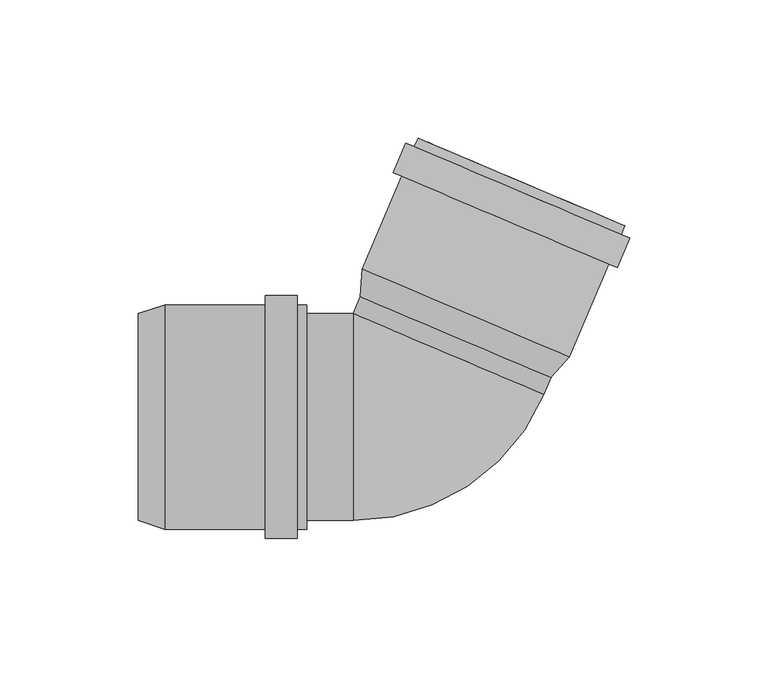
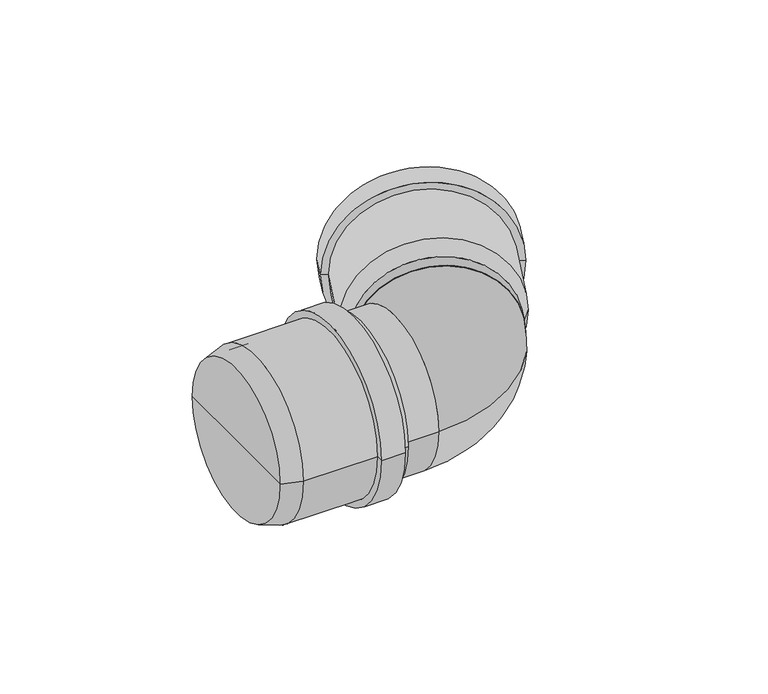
"""IFC4 building model written with IfcOpenShell, lengths in millimetres: pipe fitting geometry, pf_HTB : pf_HTB."""

from ifc_helpers import new_model, si_unit, point, frame, origin, origin_2d, place, context, project, spatial, polyline, circle_curve, ellipse_curve, trimmed, segment, composite_curve, outline, extrude, source, transform, mapped, element, save
from ifc_brep_helpers import plane_surface, cylinder_surface, revolved_surface, advanced_brep


def pipe_fitting_7228f4b3(model_context):
    return source(origin(), model_context, "Body", "SolidModel", [
        advanced_brep(
        [(46.7878894, 14.2514351, 0.0), (-22.2499746, 43.5562697, 0.0), (-21.3915939, 53.5123323, 0.0), (53.3534002, 21.7849647, 0.0), (12.2689574, 28.9038524, 0.0), (73.4760533, 69.1909646, 0.0), (-1.2689408, 100.9183323, 0.0), (1.5846243, 99.7070658, 0.0), (70.6224883, 70.4022311, 0.0), (72.1475675, 66.0612481, 0.0), (-2.5974266, 97.7886158, 0.0), (75.277284, 64.7327623, 0.0), (-5.7271431, 99.1171016, 0.0), (70.7448029, 54.054906, 0.0), (-10.2596242, 88.4392453, 0.0), (67.6150864, 55.3833918, 0.0), (-7.1299077, 87.1107595, 0.0), (50.4998352, 22.9962312, 0.0), (-18.5380288, 52.3010658, 0.0), (15.9809032, 37.6486485, 0.0)],
        [
            (0, 1, circle_curve(frame((12.2689574, 28.9038524, 0.0), z_axis=(0.39073112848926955, 0.9205048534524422, 0.0), x_axis=(-0.9205048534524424, 0.39073112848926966, 0.0)), 37.5)),
            (1, 2),
            (2, 3, circle_curve(frame((15.9809032, 37.6486485, 0.0), z_axis=(-0.39073112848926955, -0.9205048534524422, 0.0), x_axis=(-0.9205048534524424, 0.39073112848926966, 0.0)), 40.6)),
            (3, 0),
            (1, 0, circle_curve(frame((12.2689574, 28.9038524, 0.0), z_axis=(0.39073112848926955, 0.9205048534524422, 0.0), x_axis=(-0.9205048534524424, 0.39073112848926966, 0.0)), 37.5)),
            (3, 2, circle_curve(frame((15.9809032, 37.6486485, 0.0), z_axis=(-0.39073112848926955, -0.9205048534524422, 0.0), x_axis=(-0.9205048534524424, 0.39073112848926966, 0.0)), 40.6)),
            (4, 1),
            (0, 4),
            (5, 6, circle_curve(frame((36.1035563, 85.0546485, 0.0), z_axis=(0.39073112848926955, 0.9205048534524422, 0.0), x_axis=(-0.9205048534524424, 0.39073112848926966, 0.0)), 40.6)),
            (6, 7),
            (7, 8, circle_curve(frame((36.1035563, 85.0546485, 0.0), z_axis=(-0.39073112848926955, -0.9205048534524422, 0.0), x_axis=(-0.9205048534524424, 0.39073112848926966, 0.0)), 37.5)),
            (8, 5),
            (6, 5, circle_curve(frame((36.1035563, 85.0546485, 0.0), z_axis=(0.39073112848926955, 0.9205048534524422, 0.0), x_axis=(-0.9205048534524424, 0.39073112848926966, 0.0)), 40.6)),
            (8, 7, circle_curve(frame((36.1035563, 85.0546485, 0.0), z_axis=(-0.39073112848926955, -0.9205048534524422, 0.0), x_axis=(-0.9205048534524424, 0.39073112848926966, 0.0)), 37.5)),
            (9, 10, circle_curve(frame((34.7750704, 81.924932, 0.0), z_axis=(0.39073112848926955, 0.9205048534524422, 0.0), x_axis=(-0.9205048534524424, 0.39073112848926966, 0.0)), 40.6)),
            (10, 6),
            (5, 9),
            (10, 9, circle_curve(frame((34.7750704, 81.924932, 0.0), z_axis=(0.39073112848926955, 0.9205048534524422, 0.0), x_axis=(-0.9205048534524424, 0.39073112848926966, 0.0)), 40.6)),
            (11, 12, circle_curve(frame((34.7750704, 81.924932, 0.0), z_axis=(0.39073112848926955, 0.9205048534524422, 0.0), x_axis=(-0.9205048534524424, 0.39073112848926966, 0.0)), 44.0)),
            (12, 10),
            (9, 11),
            (12, 11, circle_curve(frame((34.7750704, 81.924932, 0.0), z_axis=(0.39073112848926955, 0.9205048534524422, 0.0), x_axis=(-0.9205048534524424, 0.39073112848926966, 0.0)), 44.0)),
            (13, 14, circle_curve(frame((30.2425893, 71.2470757, 0.0), z_axis=(0.39073112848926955, 0.9205048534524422, 0.0), x_axis=(-0.9205048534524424, 0.39073112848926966, 0.0)), 44.0)),
            (14, 12),
            (11, 13),
            (14, 13, circle_curve(frame((30.2425893, 71.2470757, 0.0), z_axis=(0.39073112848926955, 0.9205048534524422, 0.0), x_axis=(-0.9205048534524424, 0.39073112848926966, 0.0)), 44.0)),
            (15, 16, circle_curve(frame((30.2425893, 71.2470757, 0.0), z_axis=(0.39073112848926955, 0.9205048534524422, 0.0), x_axis=(-0.9205048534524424, 0.39073112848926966, 0.0)), 40.6)),
            (16, 14),
            (13, 15),
            (16, 15, circle_curve(frame((30.2425893, 71.2470757, 0.0), z_axis=(0.39073112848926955, 0.9205048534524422, 0.0), x_axis=(-0.9205048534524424, 0.39073112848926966, 0.0)), 40.6)),
            (2, 16),
            (15, 3),
            (17, 18, circle_curve(frame((15.9809032, 37.6486485, 0.0), z_axis=(0.39073112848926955, 0.9205048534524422, 0.0), x_axis=(-0.9205048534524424, 0.39073112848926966, 0.0)), 37.5)),
            (18, 19),
            (19, 17),
            (18, 17, circle_curve(frame((15.9809032, 37.6486485, 0.0), z_axis=(0.39073112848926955, 0.9205048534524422, 0.0), x_axis=(-0.9205048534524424, 0.39073112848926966, 0.0)), 37.5)),
            (7, 18),
            (17, 8),
        ],
        [
            revolved_surface(polyline([(-21.3915939, 53.5123323, 0.0), (-22.2499746, 43.5562697, 0.0)]), (12.2689574, 28.9038524, 0.0), (-0.39073112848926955, -0.9205048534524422, 0.0)),
            plane_surface(frame((12.2689574, 28.9038524, 0.0), z_axis=(-0.39073112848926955, -0.9205048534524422, 0.0), x_axis=(-0.9205048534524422, 0.39073112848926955, 0.0))),
            plane_surface(frame((36.1035563, 85.0546485, 0.0), z_axis=(0.39073112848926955, 0.9205048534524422, 0.0), x_axis=(-0.9205048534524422, 0.39073112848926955, 0.0))),
            cylinder_surface(frame((12.2689574, 28.9038524, 0.0), z_axis=(-0.39073112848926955, -0.9205048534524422, 0.0), x_axis=(-0.9205048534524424, 0.39073112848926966, 0.0)), 40.6),
            plane_surface(frame((34.7750704, 81.924932, 0.0), z_axis=(0.39073112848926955, 0.9205048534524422, 0.0), x_axis=(-0.9205048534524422, 0.39073112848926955, 0.0))),
            cylinder_surface(frame((12.2689574, 28.9038524, 0.0), z_axis=(-0.39073112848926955, -0.9205048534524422, 0.0), x_axis=(-0.9205048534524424, 0.39073112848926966, 0.0)), 44.0),
            plane_surface(frame((30.2425893, 71.2470757, 0.0), z_axis=(-0.39073112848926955, -0.9205048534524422, 0.0), x_axis=(-0.9205048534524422, 0.39073112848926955, 0.0))),
            plane_surface(frame((15.9809032, 37.6486485, 0.0), z_axis=(0.39073112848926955, 0.9205048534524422, 0.0), x_axis=(-0.9205048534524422, 0.39073112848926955, 0.0))),
            revolved_surface(polyline([(-18.53802888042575, 52.30106583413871, 0.0), (1.5846242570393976, 99.70706583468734, 0.0)]), (12.2689574, 28.9038524, 0.0), (-0.39073112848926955, -0.9205048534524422, 0.0)),
        ],
        [
            (0, [[1, 2, 3, 4]]),
            (0, [[5, -4, 6, -2]]),
            (1, [[7, -1, 8]]),
            (1, [[-8, -5, -7]]),
            (2, [[9, 10, 11, 12]]),
            (2, [[13, -12, 14, -10]]),
            (3, [[15, 16, -9, 17]]),
            (3, [[18, -17, -13, -16]]),
            (4, [[19, 20, -15, 21]]),
            (4, [[22, -21, -18, -20]]),
            (5, [[23, 24, -19, 25]]),
            (5, [[26, -25, -22, -24]]),
            (6, [[27, 28, -23, 29]]),
            (6, [[30, -29, -26, -28]]),
            (3, [[-3, 31, -27, 32]]),
            (3, [[-6, -32, -30, -31]]),
            (7, [[33, 34, 35]]),
            (7, [[36, -35, -34]]),
            (8, [[-11, 37, -33, 38]]),
            (8, [[-14, -38, -36, -37]]),
        ],
    ),
        advanced_brep(
        [(-102.5, -37.5, 0.0), (-102.5, 37.5, 0.0), (-93.0, 40.6, 0.0), (-93.0, -40.6, 0.0), (-102.5, 0.0, 0.0), (-41.5, -40.6, 0.0), (-41.5, 40.6, 0.0), (-41.5, 37.5, 0.0), (-41.5, -37.5, 0.0), (-44.9, -40.6, 0.0), (-44.9, 40.6, 0.0), (-44.9, -44.0, 0.0), (-44.9, 44.0, 0.0), (-56.5, -44.0, 0.0), (-56.5, 44.0, 0.0), (-56.5, -40.6, 0.0), (-56.5, 40.6, 0.0), (-93.0, -37.5, 0.0), (-93.0, 37.5, 0.0), (-93.0, 0.0, 0.0)],
        [
            (0, 1, circle_curve(frame((-102.5, 0.0, 0.0), z_axis=(1.0, 0.0, 0.0), x_axis=(0.0, 1.0, 0.0)), 37.5)),
            (1, 2),
            (2, 3, circle_curve(frame((-93.0, 0.0, 0.0), z_axis=(-1.0, 0.0, 0.0), x_axis=(0.0, 1.0, 0.0)), 40.6)),
            (3, 0),
            (1, 0, circle_curve(frame((-102.5, 0.0, 0.0), z_axis=(1.0, 0.0, 0.0), x_axis=(0.0, 1.0, 0.0)), 37.5)),
            (3, 2, circle_curve(frame((-93.0, 0.0, 0.0), z_axis=(-1.0, 0.0, 0.0), x_axis=(0.0, 1.0, 0.0)), 40.6)),
            (4, 1),
            (0, 4),
            (5, 6, circle_curve(frame((-41.5, 0.0, 0.0), z_axis=(1.0, 0.0, 0.0), x_axis=(0.0, 1.0, 0.0)), 40.6)),
            (6, 7),
            (7, 8, circle_curve(frame((-41.5, 0.0, 0.0), z_axis=(-1.0, 0.0, 0.0), x_axis=(0.0, 1.0, 0.0)), 37.5)),
            (8, 5),
            (6, 5, circle_curve(frame((-41.5, 0.0, 0.0), z_axis=(1.0, 0.0, 0.0), x_axis=(0.0, 1.0, 0.0)), 40.6)),
            (8, 7, circle_curve(frame((-41.5, 0.0, 0.0), z_axis=(-1.0, 0.0, 0.0), x_axis=(0.0, 1.0, 0.0)), 37.5)),
            (9, 10, circle_curve(frame((-44.9, 0.0, 0.0), z_axis=(1.0, 0.0, 0.0), x_axis=(0.0, 1.0, 0.0)), 40.6)),
            (10, 6),
            (5, 9),
            (10, 9, circle_curve(frame((-44.9, 0.0, 0.0), z_axis=(1.0, 0.0, 0.0), x_axis=(0.0, 1.0, 0.0)), 40.6)),
            (11, 12, circle_curve(frame((-44.9, 0.0, 0.0), z_axis=(1.0, 0.0, 0.0), x_axis=(0.0, 1.0, 0.0)), 44.0)),
            (12, 10),
            (9, 11),
            (12, 11, circle_curve(frame((-44.9, 0.0, 0.0), z_axis=(1.0, 0.0, 0.0), x_axis=(0.0, 1.0, 0.0)), 44.0)),
            (13, 14, circle_curve(frame((-56.5, 0.0, 0.0), z_axis=(1.0, 0.0, 0.0), x_axis=(0.0, 1.0, 0.0)), 44.0)),
            (14, 12),
            (11, 13),
            (14, 13, circle_curve(frame((-56.5, 0.0, 0.0), z_axis=(1.0, 0.0, 0.0), x_axis=(0.0, 1.0, 0.0)), 44.0)),
            (15, 16, circle_curve(frame((-56.5, 0.0, 0.0), z_axis=(1.0, 0.0, 0.0), x_axis=(0.0, 1.0, 0.0)), 40.6)),
            (16, 14),
            (13, 15),
            (16, 15, circle_curve(frame((-56.5, 0.0, 0.0), z_axis=(1.0, 0.0, 0.0), x_axis=(0.0, 1.0, 0.0)), 40.6)),
            (2, 16),
            (15, 3),
            (17, 18, circle_curve(frame((-93.0, 0.0, 0.0), z_axis=(1.0, 0.0, 0.0), x_axis=(0.0, 1.0, 0.0)), 37.5)),
            (18, 19),
            (19, 17),
            (18, 17, circle_curve(frame((-93.0, 0.0, 0.0), z_axis=(1.0, 0.0, 0.0), x_axis=(0.0, 1.0, 0.0)), 37.5)),
            (7, 18),
            (17, 8),
        ],
        [
            revolved_surface(polyline([(-93.0, 40.6, 0.0), (-102.5, 37.5, 0.0)]), (-102.5, 0.0, 0.0), (-1.0, 0.0, 0.0)),
            plane_surface(frame((-102.5, 0.0, 0.0), z_axis=(-1.0, 0.0, 0.0), x_axis=(0.0, 1.0, 0.0))),
            plane_surface(frame((-41.5, 0.0, 0.0), z_axis=(1.0, 0.0, 0.0), x_axis=(0.0, 1.0, 0.0))),
            cylinder_surface(frame((-102.5, 0.0, 0.0), z_axis=(-1.0, 0.0, 0.0), x_axis=(0.0, 1.0, 0.0)), 40.6),
            plane_surface(frame((-44.9, 0.0, 0.0), z_axis=(1.0, 0.0, 0.0), x_axis=(0.0, 1.0, 0.0))),
            cylinder_surface(frame((-102.5, 0.0, 0.0), z_axis=(-1.0, 0.0, 0.0), x_axis=(0.0, 1.0, 0.0)), 44.0),
            plane_surface(frame((-56.5, 0.0, 0.0), z_axis=(-1.0, 0.0, 0.0), x_axis=(0.0, 1.0, 0.0))),
            plane_surface(frame((-93.0, 0.0, 0.0), z_axis=(1.0, 0.0, 0.0), x_axis=(0.0, 1.0, 0.0))),
            revolved_surface(polyline([(-93.0, 37.5, 0.0), (-41.5, 37.5, 0.0)]), (-102.5, 0.0, 0.0), (-1.0, 0.0, 0.0)),
        ],
        [
            (0, [[1, 2, 3, 4]]),
            (0, [[5, -4, 6, -2]]),
            (1, [[7, -1, 8]]),
            (1, [[-8, -5, -7]]),
            (2, [[9, 10, 11, 12]]),
            (2, [[13, -12, 14, -10]]),
            (3, [[15, 16, -9, 17]]),
            (3, [[18, -17, -13, -16]]),
            (4, [[19, 20, -15, 21]]),
            (4, [[22, -21, -18, -20]]),
            (5, [[23, 24, -19, 25]]),
            (5, [[26, -25, -22, -24]]),
            (6, [[27, 28, -23, 29]]),
            (6, [[30, -29, -26, -28]]),
            (3, [[-3, 31, -27, 32]]),
            (3, [[-6, -32, -30, -31]]),
            (7, [[33, 34, 35]]),
            (7, [[36, -35, -34]]),
            (8, [[-11, 37, -33, 38]]),
            (8, [[-14, -38, -36, -37]]),
        ],
    ),
        extrude(outline(composite_curve([segment(trimmed(circle_curve(origin_2d(), 37.5), [point((0.0, -37.5))], [point((0.0, 37.5))], False, "CARTESIAN"), True, "CONTINUOUS"), segment(trimmed(circle_curve(origin_2d(), 37.5), [point((0.0, 37.5))], [point((0.0, -37.5))], False, "CARTESIAN"), True, "CONTINUOUS")], self_intersect=False)), frame((9.6982235, 22.8475827, 0.0), z_axis=(0.3907311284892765, 0.9205048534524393, 0.0), x_axis=(0.0, 0.0, 1.0)), (0.0, 0.0, 1.0), 16.0792915),
        extrude(outline(composite_curve([segment(trimmed(circle_curve(origin_2d(), 37.5), [point((-37.5, 0.0))], [point((37.5, 0.0))], False, "CARTESIAN"), True, "CONTINUOUS"), segment(trimmed(circle_curve(origin_2d(), 37.5), [point((37.5, 0.0))], [point((-37.5, 0.0))], False, "CARTESIAN"), True, "CONTINUOUS")], self_intersect=False)), frame((-93.0, 0.0, 0.0), z_axis=(1.0, 0.0, 0.0), x_axis=(0.0, 1.0, 0.0)), (0.0, 0.0, 1.0), 68.1792915),
        advanced_brep(
        [(-24.8207085, -37.5, 0.0), (-24.8207085, 37.5, 0.0), (44.2171555, 8.1951654, 0.0)],
        [
            (0, 1, circle_curve(frame((-24.8207085, 0.0, 0.0), z_axis=(-1.0, 0.0, 0.0), x_axis=(0.0, 1.0, 0.0)), 37.5)),
            (1, 0, circle_curve(frame((-24.8207085, 0.0, 0.0), z_axis=(-1.0, 0.0, 0.0), x_axis=(0.0, 1.0, 0.0)), 37.5)),
            (2, 1, circle_curve(frame((9.6982235, 22.8475827, 0.0), z_axis=(0.39073112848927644, 0.9205048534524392, 0.0), x_axis=(-0.9205048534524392, 0.39073112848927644, 0.0)), 37.5)),
            (1, 2, circle_curve(frame((9.6982235, 22.8475827, 0.0), z_axis=(0.39073112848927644, 0.9205048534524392, 0.0), x_axis=(-0.9205048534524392, 0.39073112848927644, 0.0)), 37.5)),
            (2, 0, circle_curve(frame((-24.8207085, 37.5, 0.0), z_axis=(0.0, 0.0, -1.0), x_axis=(0.0, -1.0, 0.0)), 75.0)),
        ],
        [
            plane_surface(frame((-24.8207085, 37.5, -14.8), z_axis=(-1.0, 0.0, 0.0), x_axis=(0.0, -1.0, 0.0))),
            plane_surface(frame((-24.8207085, 37.5, -14.8), z_axis=(0.39073112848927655, 0.9205048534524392, 0.0), x_axis=(0.9205048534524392, -0.39073112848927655, 0.0))),
            revolved_surface(trimmed(ellipse_curve(frame((-24.8207085, 0.0, 0.0), z_axis=(1.0, 0.0, 0.0), x_axis=(0.0, 1.0, 0.0)), 37.5, 37.5), [point((-24.8207085, -37.5, 0.0))], [point((-24.8207085, 37.5, 0.0))], True, "CARTESIAN"), (-24.8207085, 37.5, -14.8), (0.0, 0.0, -1.0)),
            revolved_surface(trimmed(ellipse_curve(frame((-24.8207085, 0.0, 0.0), z_axis=(1.0, 0.0, 0.0), x_axis=(0.0, 1.0, 0.0)), 37.5, 37.5), [point((-24.8207085, 37.5, 0.0))], [point((-24.8207085, -37.5, 0.0))], True, "CARTESIAN"), (-24.8207085, 37.5, -14.8), (0.0, 0.0, -1.0)),
        ],
        [
            (0, [[1, 2]]),
            (1, [[3, 4]]),
            (2, [[5, -2, -3]]),
            (3, [[-1, -5, -4]]),
        ],
    ),
    ])


if __name__ == "__main__":
    model = new_model("IFC4")
    model_context = context("Model", 3, world=origin())
    ifc_project = project(units=[si_unit("LENGTHUNIT", "METRE", prefix="MILLI")], contexts=[model_context])
    site = spatial("IfcSite", under=ifc_project)
    building = spatial("IfcBuilding", under=site)
    placement = place(None, origin())
    pipe_fitting_shape = pipe_fitting_7228f4b3(model_context)
    element("IfcPipeFitting", 1, ObjectType="pf_HTB : pf_HTB", at=placement, inside=building, context=model_context, shape_type="MappedRepresentation", body=[
        mapped(pipe_fitting_shape, transform((0.0, 0.0, 0.0), x_axis=(1.0, 0.0, 0.0), y_axis=(0.0, 1.0, 0.0), z_axis=(0.0, 0.0, 1.0))),
    ])
    save(model, "model.ifc")
